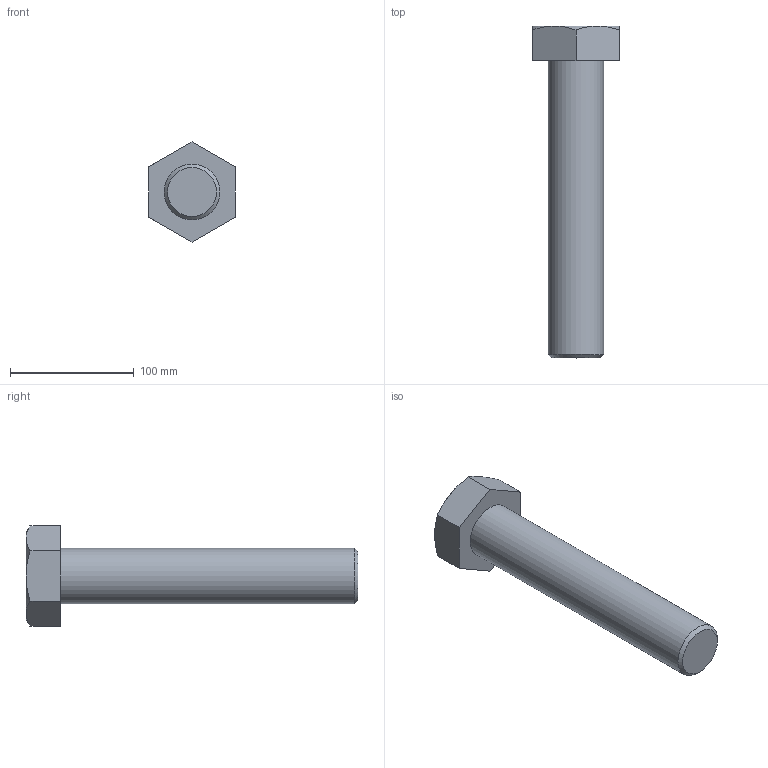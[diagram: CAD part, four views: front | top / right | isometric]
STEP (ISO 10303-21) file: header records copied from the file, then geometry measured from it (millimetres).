
FILE_DESCRIPTION(/* description */ (''),/* implementation_level */ '2;1');
FILE_NAME(/* name */ 'C:\Users\unitec\Documents\Inventor\各種小物\JIS\JIS B 1180 六角ボルト 等級C\hbc45\M45x240.stp',/* time_stamp */ '2015-02-13T14:58:28+09:00',/* author */ ('unitec'),/* organization */ (''),/* preprocessor_version */ 'ST-DEVELOPER v15.2',/* originating_system */ 'Autodesk Inventor 2014',/* authorisation */ '');
FILE_SCHEMA (('AUTOMOTIVE_DESIGN { 1 0 10303 214 3 1 1 }'));
Length unit declared in the file: millimetre
Products named in the file (1): M45x240
Bounding box: 70 x 268 x 80.83 mm (x, y, z)
Volume: 499633.4 mm3; surface area: 48768.5 mm2
Topology: 1 solids, 1 shells, 17 faces, 35 edges, 21 vertices
Faces by surface type: plane 9, cone 7, cylinder 1
Full cylindrical faces by diameter (mm): 45 x1
Entity records: 441 total; most frequent: CARTESIAN_POINT 96, ORIENTED_EDGE 66, DIRECTION 66, EDGE_CURVE 33, AXIS2_PLACEMENT_3D 27, VERTEX_POINT 21, EDGE_LOOP 20, ADVANCED_FACE 17
